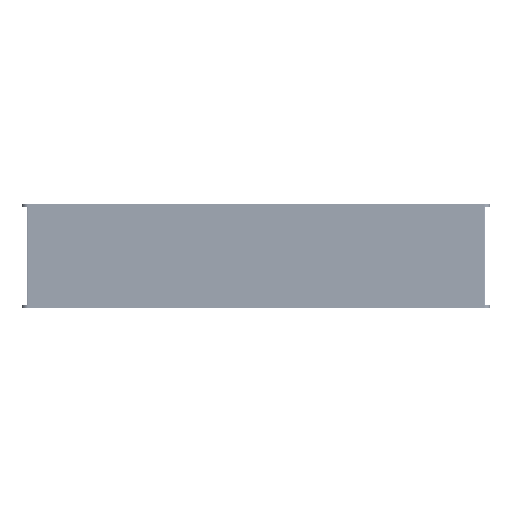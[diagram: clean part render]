
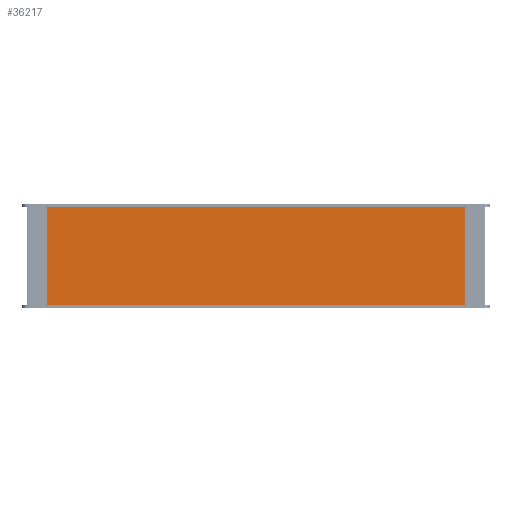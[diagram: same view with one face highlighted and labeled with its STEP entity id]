
A CAD part, left-side view. The second image highlights one B-rep face of the part: STEP entity #36217.
In plain terms, the highlighted planar face has unit normal (-1, 0, 0).
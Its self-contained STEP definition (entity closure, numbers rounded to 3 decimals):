
#1068 = VECTOR ( 'NONE', #167653, 1000. ) ;
#1666 = CARTESIAN_POINT ( 'NONE',  ( -1025.983, 467.86, 57.955 ) ) ;
#10686 = VERTEX_POINT ( 'NONE', #148809 ) ;
#14143 = LINE ( 'NONE', #1666, #1068 ) ;
#18775 = LINE ( 'NONE', #159586, #36091 ) ;
#19371 = CARTESIAN_POINT ( 'NONE',  ( -1025.983, -398.14, 57.955 ) ) ;
#30735 = AXIS2_PLACEMENT_3D ( 'NONE', #104690, #160410, #130130 ) ;
#36091 = VECTOR ( 'NONE', #76605, 1000. ) ;
#36217 = ADVANCED_FACE ( 'NONE', ( #154360 ), #75009, .F. ) ;
#36757 = ORIENTED_EDGE ( 'NONE', *, *, #114080, .T. ) ;
#37836 = VERTEX_POINT ( 'NONE', #132237 ) ;
#57108 = ORIENTED_EDGE ( 'NONE', *, *, #73180, .T. ) ;
#62260 = ORIENTED_EDGE ( 'NONE', *, *, #99097, .T. ) ;
#73180 = EDGE_CURVE ( 'NONE', #147689, #140335, #156302, .T. ) ;
#75009 = PLANE ( 'NONE',  #30735 ) ;
#76605 = DIRECTION ( 'NONE',  ( 0., -1., 0. ) ) ;
#99097 = EDGE_CURVE ( 'NONE', #37836, #10686, #14143, .T. ) ;
#100418 = ORIENTED_EDGE ( 'NONE', *, *, #155588, .T. ) ;
#104690 = CARTESIAN_POINT ( 'NONE',  ( -1025.983, 34.86, -36.545 ) ) ;
#107173 = LINE ( 'NONE', #125931, #146211 ) ;
#107304 = DIRECTION ( 'NONE',  ( 0., 0., 1. ) ) ;
#112935 = EDGE_LOOP ( 'NONE', ( #62260, #36757, #57108, #100418 ) ) ;
#114080 = EDGE_CURVE ( 'NONE', #10686, #147689, #18775, .T. ) ;
#125931 = CARTESIAN_POINT ( 'NONE',  ( -1025.983, -398.14, 57.955 ) ) ;
#130130 = DIRECTION ( 'NONE',  ( 0., -1., 0. ) ) ;
#132237 = CARTESIAN_POINT ( 'NONE',  ( -1025.983, 467.86, 57.955 ) ) ;
#140335 = VERTEX_POINT ( 'NONE', #19371 ) ;
#143208 = VECTOR ( 'NONE', #107304, 1000. ) ;
#146211 = VECTOR ( 'NONE', #153809, 1000. ) ;
#147689 = VERTEX_POINT ( 'NONE', #163479 ) ;
#148809 = CARTESIAN_POINT ( 'NONE',  ( -1025.983, 467.86, -131.045 ) ) ;
#153809 = DIRECTION ( 'NONE',  ( 0., 1., 0. ) ) ;
#154360 = FACE_OUTER_BOUND ( 'NONE', #112935, .T. ) ;
#155588 = EDGE_CURVE ( 'NONE', #140335, #37836, #107173, .T. ) ;
#156302 = LINE ( 'NONE', #163029, #143208 ) ;
#159586 = CARTESIAN_POINT ( 'NONE',  ( -1025.983, -398.14, -131.045 ) ) ;
#160410 = DIRECTION ( 'NONE',  ( 1., 0., 0. ) ) ;
#163029 = CARTESIAN_POINT ( 'NONE',  ( -1025.983, -398.14, 57.955 ) ) ;
#163479 = CARTESIAN_POINT ( 'NONE',  ( -1025.983, -398.14, -131.045 ) ) ;
#167653 = DIRECTION ( 'NONE',  ( 0., 0., -1. ) ) ;
